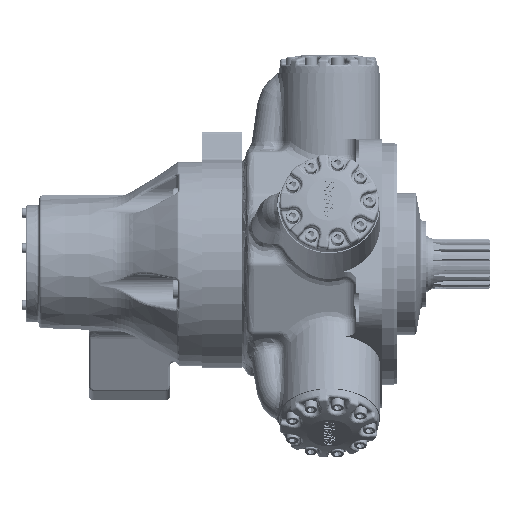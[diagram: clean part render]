
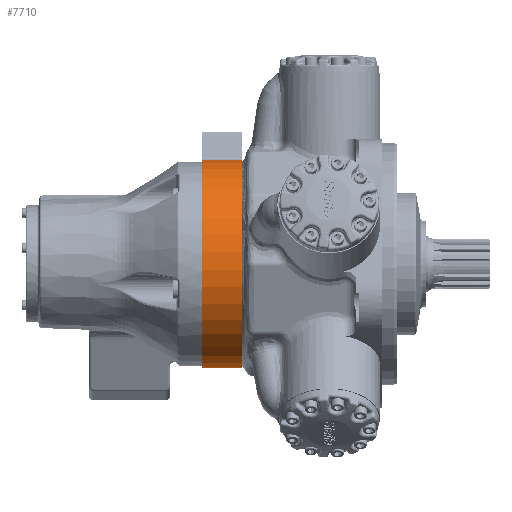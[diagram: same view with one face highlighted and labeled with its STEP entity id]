
A CAD part, front view. The second image highlights one B-rep face of the part: STEP entity #7710.
In plain terms, the highlighted cylindrical face has radius 130.175 mm (diameter 260.35 mm), a partial arc.
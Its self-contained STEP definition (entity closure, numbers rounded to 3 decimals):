
#6000=CARTESIAN_POINT('',(-108.267,-10.639,129.739));
#6001=VERTEX_POINT('',#6000);
#6002=CARTESIAN_POINT('',(-108.268,84.866,98.708));
#6003=VERTEX_POINT('',#6002);
#6004=CARTESIAN_POINT('',(-108.267,0.,0.));
#6005=DIRECTION('',(1.0,0.,0.));
#6006=DIRECTION('',(0.,-0.309,-0.951));
#6007=AXIS2_PLACEMENT_3D('',#6004,#6005,#6006);
#6008=CIRCLE('',#6007,130.175);
#6009=EDGE_CURVE('',#6001,#6003,#6008,.T.);
#6262=CARTESIAN_POINT('',(-159.067,-10.639,129.739));
#6263=VERTEX_POINT('',#6262);
#6345=CARTESIAN_POINT('',(-159.068,84.866,98.708));
#6346=VERTEX_POINT('',#6345);
#6354=CARTESIAN_POINT('',(-159.067,0.,0.));
#6355=DIRECTION('',(1.0,0.,0.));
#6356=DIRECTION('',(0.,-0.309,-0.951));
#6357=AXIS2_PLACEMENT_3D('',#6354,#6355,#6356);
#6358=CIRCLE('',#6357,130.175);
#6359=EDGE_CURVE('',#6263,#6346,#6358,.T.);
#7592=CARTESIAN_POINT('',(-159.067,-10.639,129.739));
#7593=DIRECTION('',(1.0,0.0,0.0));
#7594=VECTOR('',#7593,50.8);
#7595=LINE('',#7592,#7594);
#7596=EDGE_CURVE('',#6263,#6001,#7595,.T.);
#7631=CARTESIAN_POINT('',(-108.268,84.866,98.708));
#7632=DIRECTION('',(-1.0,0.0,0.0));
#7633=VECTOR('',#7632,50.8);
#7634=LINE('',#7631,#7633);
#7635=EDGE_CURVE('',#6003,#6346,#7634,.T.);
#7699=CARTESIAN_POINT('',(-133.667,0.,0.));
#7700=DIRECTION('',(1.0,0.,0.));
#7701=DIRECTION('',(0.,-0.309,-0.951));
#7702=AXIS2_PLACEMENT_3D('',#7699,#7700,#7701);
#7703=CYLINDRICAL_SURFACE('',#7702,130.175);
#7704=ORIENTED_EDGE('',*,*,#7596,.F.);
#7705=ORIENTED_EDGE('',*,*,#6359,.T.);
#7706=ORIENTED_EDGE('',*,*,#7635,.F.);
#7707=ORIENTED_EDGE('',*,*,#6009,.F.);
#7708=EDGE_LOOP('',(#7704,#7705,#7706,#7707));
#7709=FACE_OUTER_BOUND('',#7708,.T.);
#7710=ADVANCED_FACE('',(#7709),#7703,.T.);
